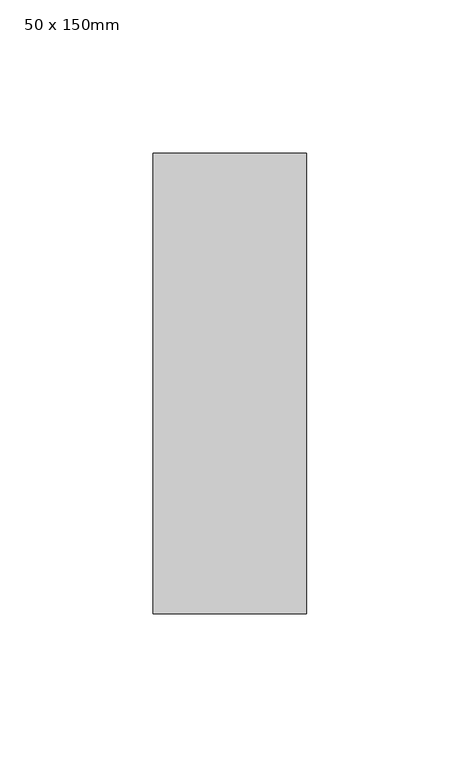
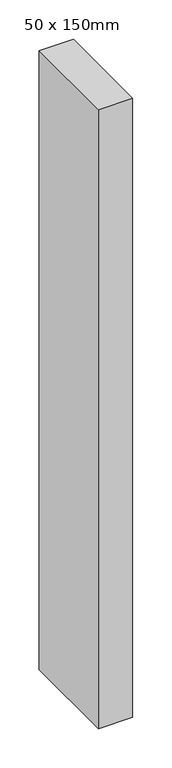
"""IFC4 building model written with IfcOpenShell, lengths in millimetres: member geometry, 矩形豎框 : 50 x 150mm."""

from ifc_helpers import new_model, si_unit, frame, origin, place, context, project, spatial, polyline, outline, extrude, source, transform, mapped, element, save


def member_50_x_150mm_622a95de(model_context):
    return source(origin(), model_context, "Body", "SweptSolid", [
        extrude(outline(polyline([(0.0, 75.0), (0.0, -75.0), (-50.0, -75.0), (-50.0, 75.0), (0.0, 75.0)])), frame((0.0, 0.0, -958.1595946), z_axis=(0.0, 0.0, 1.0), x_axis=(1.0, 0.0, 0.0)), (0.0, 0.0, 1.0), 958.1595946),
    ])


if __name__ == "__main__":
    model = new_model("IFC4")
    model_context = context("Model", 3, world=origin())
    ifc_project = project(units=[si_unit("LENGTHUNIT", "METRE", prefix="MILLI")], contexts=[model_context])
    site = spatial("IfcSite", under=ifc_project)
    building = spatial("IfcBuilding", under=site)
    placement = place(None, origin())
    member_50_x_150mm_shape = member_50_x_150mm_622a95de(model_context)
    element("IfcMember", 1, ObjectType="矩形豎框 : 50 x 150mm", at=placement, inside=building, context=model_context, shape_type="MappedRepresentation", body=[
        mapped(member_50_x_150mm_shape, transform((0.0, 0.0, 0.0), x_axis=(1.0, 0.0, 0.0), y_axis=(0.0, 1.0, 0.0), z_axis=(0.0, 0.0, 1.0))),
    ])
    save(model, "model.ifc")
